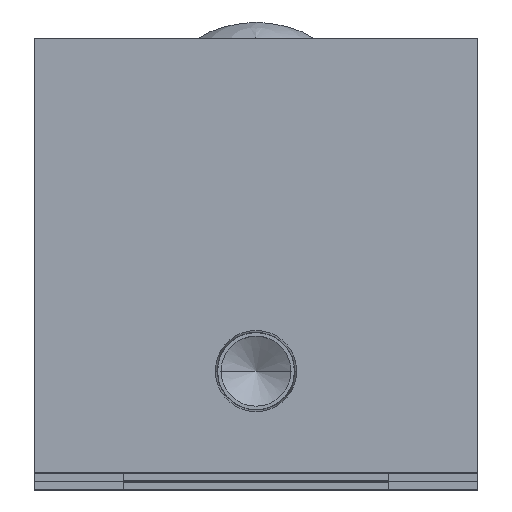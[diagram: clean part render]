
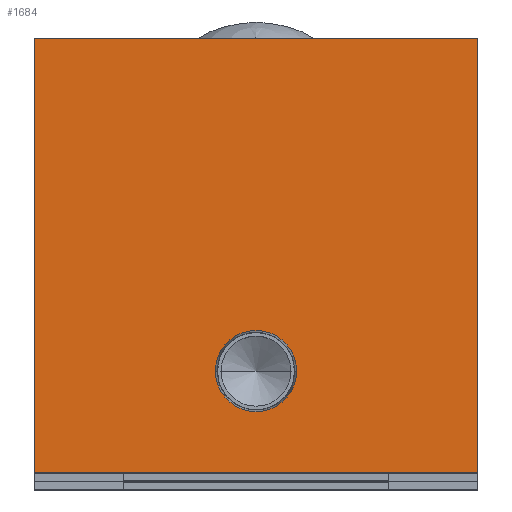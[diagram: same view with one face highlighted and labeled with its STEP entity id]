
A CAD part, top view. The second image highlights one B-rep face of the part: STEP entity #1684.
In plain terms, the highlighted planar face has unit normal (0, 0, 1).
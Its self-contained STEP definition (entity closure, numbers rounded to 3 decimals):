
#210 = LINE ( 'NONE', #5445, #3662 ) ;
#425 = LINE ( 'NONE', #3384, #8991 ) ;
#483 = FACE_BOUND ( 'NONE', #6479, .T. ) ;
#814 = CIRCLE ( 'NONE', #4238, 4.573 ) ;
#1058 = CARTESIAN_POINT ( 'NONE',  ( -4.573, 11.5, 0. ) ) ;
#1123 = LINE ( 'NONE', #4065, #7741 ) ;
#1178 = DIRECTION ( 'NONE',  ( 0., 1., 0. ) ) ;
#1226 = VERTEX_POINT ( 'NONE', #1058 ) ;
#1268 = DIRECTION ( 'NONE',  ( 0., 0., -1. ) ) ;
#1328 = CARTESIAN_POINT ( 'NONE',  ( -25., 49., 0. ) ) ;
#1629 = EDGE_CURVE ( 'NONE', #4762, #8333, #4593, .T. ) ;
#1684 = ADVANCED_FACE ( 'NONE', ( #483, #7872 ), #8139, .T. ) ;
#1696 = ORIENTED_EDGE ( 'NONE', *, *, #2433, .F. ) ;
#1742 = CARTESIAN_POINT ( 'NONE',  ( 4.573, 11.5, 0. ) ) ;
#1947 = CARTESIAN_POINT ( 'NONE',  ( 0., 0., 0. ) ) ;
#1973 = ORIENTED_EDGE ( 'NONE', *, *, #6587, .T. ) ;
#2021 = DIRECTION ( 'NONE',  ( 1., 0., 0. ) ) ;
#2433 = EDGE_CURVE ( 'NONE', #5751, #4762, #1123, .T. ) ;
#2474 = AXIS2_PLACEMENT_3D ( 'NONE', #3981, #8842, #4688 ) ;
#2497 = CIRCLE ( 'NONE', #2474, 4.573 ) ;
#2529 = ORIENTED_EDGE ( 'NONE', *, *, #7677, .F. ) ;
#2581 = CARTESIAN_POINT ( 'NONE',  ( 25., 49., 0. ) ) ;
#3300 = DIRECTION ( 'NONE',  ( 0., 0., 1. ) ) ;
#3384 = CARTESIAN_POINT ( 'NONE',  ( 25., 0., 0. ) ) ;
#3662 = VECTOR ( 'NONE', #2021, 1000. ) ;
#3734 = AXIS2_PLACEMENT_3D ( 'NONE', #1947, #3300, #8167 ) ;
#3981 = CARTESIAN_POINT ( 'NONE',  ( 0., 11.5, 0. ) ) ;
#4042 = DIRECTION ( 'NONE',  ( 0., -1., 0. ) ) ;
#4065 = CARTESIAN_POINT ( 'NONE',  ( -25., 0., 0. ) ) ;
#4080 = ORIENTED_EDGE ( 'NONE', *, *, #7658, .F. ) ;
#4238 = AXIS2_PLACEMENT_3D ( 'NONE', #5396, #1268, #6094 ) ;
#4314 = CARTESIAN_POINT ( 'NONE',  ( -25., 49., 0. ) ) ;
#4593 = LINE ( 'NONE', #1328, #6438 ) ;
#4688 = DIRECTION ( 'NONE',  ( 1., 0., 0. ) ) ;
#4762 = VERTEX_POINT ( 'NONE', #4765 ) ;
#4765 = CARTESIAN_POINT ( 'NONE',  ( -25., 0., 0. ) ) ;
#5396 = CARTESIAN_POINT ( 'NONE',  ( 0., 11.5, 0. ) ) ;
#5445 = CARTESIAN_POINT ( 'NONE',  ( 25., 49., 0. ) ) ;
#5751 = VERTEX_POINT ( 'NONE', #7695 ) ;
#5865 = DIRECTION ( 'NONE',  ( -1., 0., 0. ) ) ;
#5874 = EDGE_LOOP ( 'NONE', ( #2529, #4080, #8497, #1696 ) ) ;
#6085 = ORIENTED_EDGE ( 'NONE', *, *, #7611, .T. ) ;
#6094 = DIRECTION ( 'NONE',  ( 1., 0., 0. ) ) ;
#6391 = VERTEX_POINT ( 'NONE', #1742 ) ;
#6438 = VECTOR ( 'NONE', #1178, 1000. ) ;
#6479 = EDGE_LOOP ( 'NONE', ( #1973, #6085 ) ) ;
#6587 = EDGE_CURVE ( 'NONE', #6391, #1226, #814, .T. ) ;
#7611 = EDGE_CURVE ( 'NONE', #1226, #6391, #2497, .T. ) ;
#7658 = EDGE_CURVE ( 'NONE', #8333, #8865, #210, .T. ) ;
#7677 = EDGE_CURVE ( 'NONE', #8865, #5751, #425, .T. ) ;
#7695 = CARTESIAN_POINT ( 'NONE',  ( 25., 0., 0. ) ) ;
#7741 = VECTOR ( 'NONE', #5865, 1000. ) ;
#7872 = FACE_OUTER_BOUND ( 'NONE', #5874, .T. ) ;
#8139 = PLANE ( 'NONE',  #3734 ) ;
#8167 = DIRECTION ( 'NONE',  ( 1., 0., 0. ) ) ;
#8333 = VERTEX_POINT ( 'NONE', #4314 ) ;
#8497 = ORIENTED_EDGE ( 'NONE', *, *, #1629, .F. ) ;
#8842 = DIRECTION ( 'NONE',  ( 0., 0., -1. ) ) ;
#8865 = VERTEX_POINT ( 'NONE', #2581 ) ;
#8991 = VECTOR ( 'NONE', #4042, 1000. ) ;
